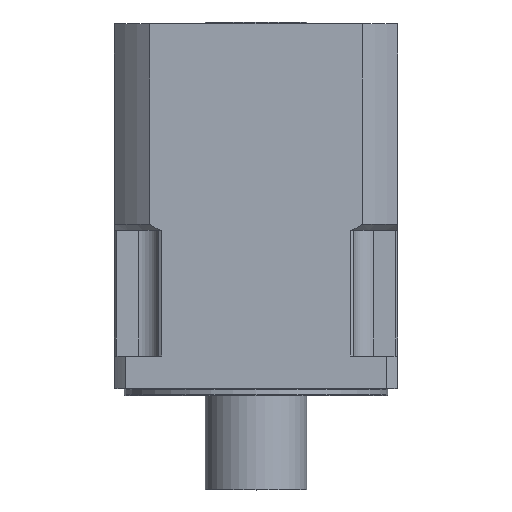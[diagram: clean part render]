
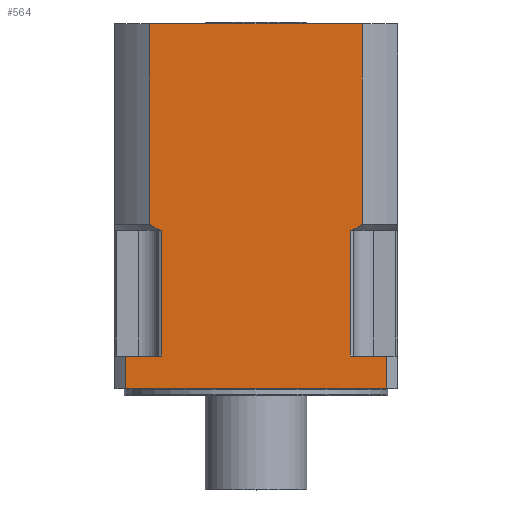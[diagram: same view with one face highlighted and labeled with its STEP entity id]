
A CAD part, top view. The second image highlights one B-rep face of the part: STEP entity #564.
In plain terms, the highlighted planar face has unit normal (0, 0, 1).
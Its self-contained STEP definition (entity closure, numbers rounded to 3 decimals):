
#564=ADVANCED_FACE('',(#853),#801,.T.);
#801=PLANE('',#4376);
#853=FACE_OUTER_BOUND('',#1074,.T.);
#1074=EDGE_LOOP('',(#1545,#1546,#1547,#1548,#1549,#1550,#1551,#1552,#1553,
#1554,#1555,#1556,#1557,#1558));
#1353=B_SPLINE_CURVE_WITH_KNOTS('',3,(#6180,#6181,#6182,#6183),.UNSPECIFIED.,
.F.,.F.,(4,4),(0.,1.),.UNSPECIFIED.);
#1354=B_SPLINE_CURVE_WITH_KNOTS('',3,(#6191,#6192,#6193,#6194),.UNSPECIFIED.,
.F.,.F.,(4,4),(0.,1.),.UNSPECIFIED.);
#1545=ORIENTED_EDGE('',*,*,#3265,.T.);
#1546=ORIENTED_EDGE('',*,*,#3266,.T.);
#1547=ORIENTED_EDGE('',*,*,#3267,.T.);
#1548=ORIENTED_EDGE('',*,*,#3268,.F.);
#1549=ORIENTED_EDGE('',*,*,#3269,.T.);
#1550=ORIENTED_EDGE('',*,*,#3270,.T.);
#1551=ORIENTED_EDGE('',*,*,#3271,.T.);
#1552=ORIENTED_EDGE('',*,*,#3272,.F.);
#1553=ORIENTED_EDGE('',*,*,#3273,.T.);
#1554=ORIENTED_EDGE('',*,*,#3274,.F.);
#1555=ORIENTED_EDGE('',*,*,#3275,.F.);
#1556=ORIENTED_EDGE('',*,*,#3276,.F.);
#1557=ORIENTED_EDGE('',*,*,#3277,.T.);
#1558=ORIENTED_EDGE('',*,*,#3278,.F.);
#2827=VERTEX_POINT('',#6178);
#2828=VERTEX_POINT('',#6179);
#2829=VERTEX_POINT('',#6184);
#2830=VERTEX_POINT('',#6186);
#2831=VERTEX_POINT('',#6188);
#2832=VERTEX_POINT('',#6190);
#2833=VERTEX_POINT('',#6195);
#2834=VERTEX_POINT('',#6197);
#2835=VERTEX_POINT('',#6199);
#2836=VERTEX_POINT('',#6201);
#2837=VERTEX_POINT('',#6203);
#2838=VERTEX_POINT('',#6205);
#2839=VERTEX_POINT('',#6207);
#2840=VERTEX_POINT('',#6209);
#3265=EDGE_CURVE('',#2827,#2828,#3896,.T.);
#3266=EDGE_CURVE('',#2828,#2829,#1353,.T.);
#3267=EDGE_CURVE('',#2829,#2830,#3897,.T.);
#3268=EDGE_CURVE('',#2831,#2830,#3898,.T.);
#3269=EDGE_CURVE('',#2831,#2832,#3899,.T.);
#3270=EDGE_CURVE('',#2832,#2833,#1354,.T.);
#3271=EDGE_CURVE('',#2833,#2834,#3900,.T.);
#3272=EDGE_CURVE('',#2835,#2834,#3901,.T.);
#3273=EDGE_CURVE('',#2835,#2836,#3902,.T.);
#3274=EDGE_CURVE('',#2837,#2836,#3903,.T.);
#3275=EDGE_CURVE('',#2838,#2837,#3904,.T.);
#3276=EDGE_CURVE('',#2839,#2838,#3905,.T.);
#3277=EDGE_CURVE('',#2839,#2840,#3906,.T.);
#3278=EDGE_CURVE('',#2827,#2840,#3907,.T.);
#3896=LINE('',#6177,#4152);
#3897=LINE('',#6185,#4153);
#3898=LINE('',#6187,#4154);
#3899=LINE('',#6189,#4155);
#3900=LINE('',#6196,#4156);
#3901=LINE('',#6198,#4157);
#3902=LINE('',#6200,#4158);
#3903=LINE('',#6202,#4159);
#3904=LINE('',#6204,#4160);
#3905=LINE('',#6206,#4161);
#3906=LINE('',#6208,#4162);
#3907=LINE('',#6210,#4163);
#4152=VECTOR('',#4901,1.);
#4153=VECTOR('',#4902,1.);
#4154=VECTOR('',#4903,1.);
#4155=VECTOR('',#4904,1.);
#4156=VECTOR('',#4905,1.);
#4157=VECTOR('',#4906,1.);
#4158=VECTOR('',#4907,1.);
#4159=VECTOR('',#4908,1.);
#4160=VECTOR('',#4909,1.);
#4161=VECTOR('',#4910,1.);
#4162=VECTOR('',#4911,1.);
#4163=VECTOR('',#4912,1.);
#4376=AXIS2_PLACEMENT_3D('',#6211,#4913,#4914);
#4901=DIRECTION('',(1.,0.,0.));
#4902=DIRECTION('',(0.,1.,0.));
#4903=DIRECTION('',(1.,0.,0.));
#4904=DIRECTION('',(0.,-1.,0.));
#4905=DIRECTION('',(1.,0.,0.));
#4906=DIRECTION('',(0.,1.,0.));
#4907=DIRECTION('',(-1.,0.,0.));
#4908=DIRECTION('',(0.,1.,0.));
#4909=DIRECTION('',(-1.,0.,0.));
#4910=DIRECTION('',(0.,-1.,0.));
#4911=DIRECTION('',(-1.,0.,0.));
#4912=DIRECTION('',(0.,-1.,0.));
#4913=DIRECTION('',(0.,0.,1.));
#4914=DIRECTION('',(1.,0.,0.));
#6177=CARTESIAN_POINT('',(-35.,77.5,105.));
#6178=CARTESIAN_POINT('',(81.433,77.5,105.));
#6179=CARTESIAN_POINT('',(82.331,77.5,105.));
#6180=CARTESIAN_POINT('',(82.331,77.5,105.));
#6181=CARTESIAN_POINT('',(84.069,78.474,105.));
#6182=CARTESIAN_POINT('',(85.792,79.475,105.));
#6183=CARTESIAN_POINT('',(87.5,80.5,105.));
#6184=CARTESIAN_POINT('',(87.5,80.5,105.));
#6185=CARTESIAN_POINT('',(87.5,77.5,105.));
#6186=CARTESIAN_POINT('',(87.5,179.5,105.));
#6187=CARTESIAN_POINT('',(-35.,179.5,105.));
#6188=CARTESIAN_POINT('',(-17.5,179.5,105.));
#6189=CARTESIAN_POINT('',(-17.5,77.5,105.));
#6190=CARTESIAN_POINT('',(-17.5,80.5,105.));
#6191=CARTESIAN_POINT('',(-17.5,80.5,105.));
#6192=CARTESIAN_POINT('',(-15.792,79.475,105.));
#6193=CARTESIAN_POINT('',(-14.069,78.474,105.));
#6194=CARTESIAN_POINT('',(-12.331,77.5,105.));
#6195=CARTESIAN_POINT('',(-12.331,77.5,105.));
#6196=CARTESIAN_POINT('',(-35.,77.5,105.));
#6197=CARTESIAN_POINT('',(-11.433,77.5,105.));
#6198=CARTESIAN_POINT('',(-11.433,77.5,105.));
#6199=CARTESIAN_POINT('',(-11.433,15.5,105.));
#6200=CARTESIAN_POINT('',(35.,15.5,105.));
#6201=CARTESIAN_POINT('',(-29.226,15.5,105.));
#6202=CARTESIAN_POINT('',(-29.226,-0.5,105.));
#6203=CARTESIAN_POINT('',(-29.226,-0.5,105.));
#6204=CARTESIAN_POINT('',(35.,-0.5,105.));
#6205=CARTESIAN_POINT('',(99.226,-0.5,105.));
#6206=CARTESIAN_POINT('',(99.226,-0.5,105.));
#6207=CARTESIAN_POINT('',(99.226,15.5,105.));
#6208=CARTESIAN_POINT('',(35.,15.5,105.));
#6209=CARTESIAN_POINT('',(81.433,15.5,105.));
#6210=CARTESIAN_POINT('',(81.433,77.5,105.));
#6211=CARTESIAN_POINT('',(35.,38.5,105.));
